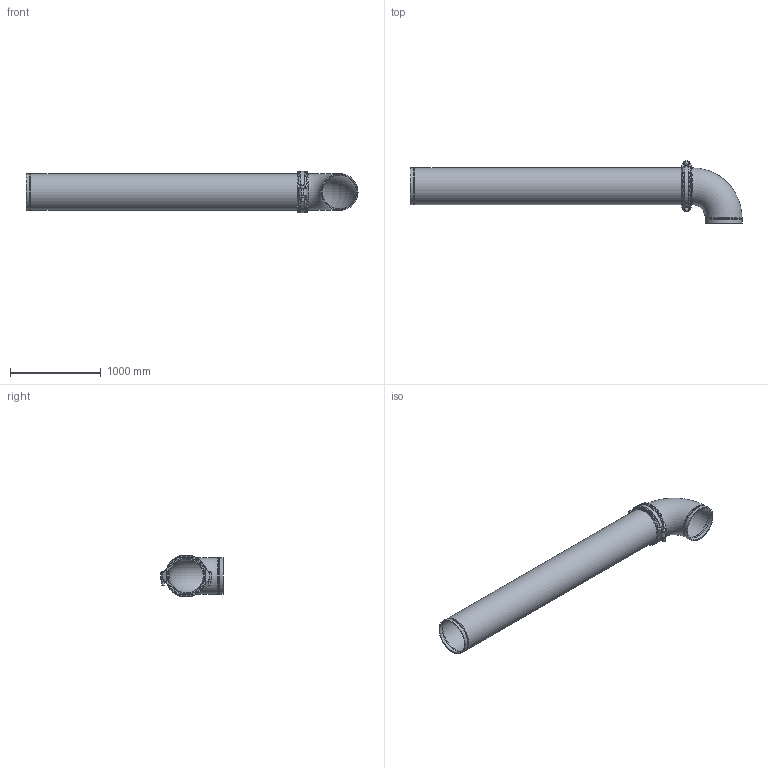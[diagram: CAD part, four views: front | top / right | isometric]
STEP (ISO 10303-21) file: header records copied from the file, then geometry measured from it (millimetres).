
FILE_DESCRIPTION(/* description */ ('VIC AGS LONG RUN FITTING No WR23 (AGS)','CAx-IF Rec.Pracs.---Representation and Presentation of Product Manufacturing Information (PMI)---4.0---2014-10-13'),/* implementation_level */ '2;1');
FILE_NAME(/* name */ 'C:\Users\kkamble\AppData\Roaming\Autodesk\ApplicationPlugins\Back Up\Victaulic_AGS_Long Run Fittings_No WR23 (AGS)\Victaulic_AGS_Long Run Fittings_No WR23 (AGS)_16 (400).stp',/* time_stamp */ '2020-10-07T02:22:11+06:00',/* author */ ('kkamble'),/* organization */ ('Victaulic'),/* preprocessor_version */ 'ST-DEVELOPER v17.2',/* originating_system */ 'Autodesk Inventor 2019',/* authorisation */ '');
FILE_SCHEMA (('AP242_MANAGED_MODEL_BASED_3D_ENGINEERING_MIM_LF { 1 0 10303 442 1 1 4 }'));
Length unit declared in the file: inch
Products named in the file (4): WR23-16.0; WR23-16.0_1; W77-16.0; W10-16.0
Assembly tree (3 placements, depth 2):
  WR23-16.0
    WR23-16.0_1
    W77-16.0
    W10-16.0
Bounding box: 3665.47 x 685.8 x 463.49 mm (x, y, z)
Volume: 53222993.9 mm3; surface area: 9802727.7 mm2
Topology: 3 solids, 5 shells, 287 faces, 838 edges, 573 vertices
Faces by surface type: cylinder 121, plane 106, torus 50, cone 8, sphere 2
Full cylindrical faces by diameter (mm): 25.4 x4, 42.85 x2, 374.65 x2, 381 x1, 387.35 x1, 393.7 x4, 406.4 x9
Entity records: 12012 total; most frequent: CARTESIAN_POINT 3927, ORIENTED_EDGE 1676, DIRECTION 1577, EDGE_CURVE 838, AXIS2_PLACEMENT_3D 637, VERTEX_POINT 573, CIRCLE 339, EDGE_LOOP 309
